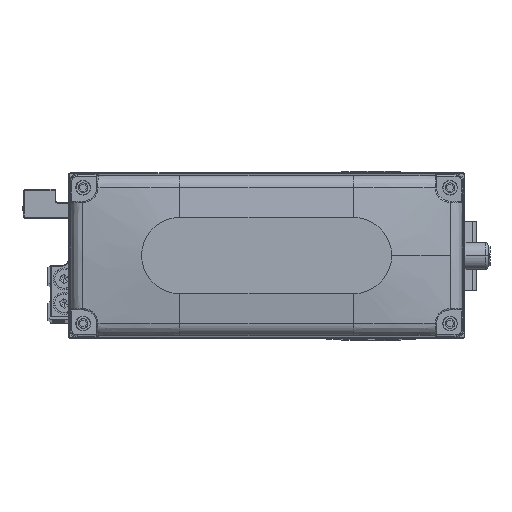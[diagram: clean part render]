
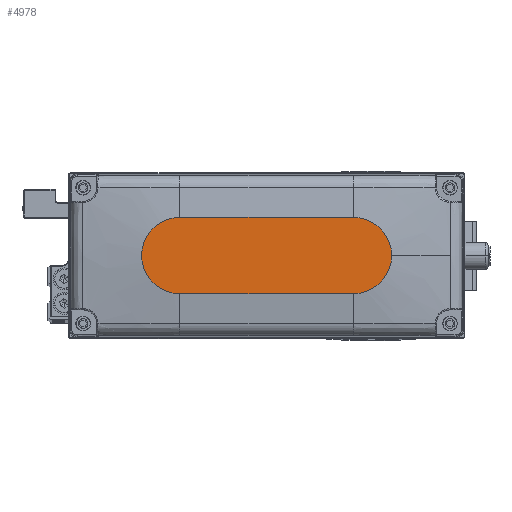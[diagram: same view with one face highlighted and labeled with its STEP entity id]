
A CAD part, top view. The second image highlights one B-rep face of the part: STEP entity #4978.
In plain terms, the highlighted planar face has unit normal (0, 0, 1).
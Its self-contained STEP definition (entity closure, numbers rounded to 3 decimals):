
#770 = LINE ( 'NONE', #15213, #40727 ) ;
#1277 = CARTESIAN_POINT ( 'NONE',  ( 32., 14., 35. ) ) ;
#1581 = DIRECTION ( 'NONE',  ( 0., 0., 1. ) ) ;
#1983 = VERTEX_POINT ( 'NONE', #20868 ) ;
#2961 = CARTESIAN_POINT ( 'NONE',  ( 32., 0., 35. ) ) ;
#4111 = LINE ( 'NONE', #18548, #30525 ) ;
#4978 = ADVANCED_FACE ( 'NONE', ( #24884 ), #39307, .T. ) ;
#5972 = CIRCLE ( 'NONE', #12015, 14. ) ;
#6513 = AXIS2_PLACEMENT_3D ( 'NONE', #33997, #1581, #16019 ) ;
#6885 = CARTESIAN_POINT ( 'NONE',  ( 0., 0., 35. ) ) ;
#10132 = EDGE_CURVE ( 'NONE', #40741, #17704, #770, .T. ) ;
#12015 = AXIS2_PLACEMENT_3D ( 'NONE', #2961, #17402, #31829 ) ;
#13487 = CARTESIAN_POINT ( 'NONE',  ( -32., 0., 35. ) ) ;
#14557 = AXIS2_PLACEMENT_3D ( 'NONE', #6885, #21331, #35742 ) ;
#15213 = CARTESIAN_POINT ( 'NONE',  ( -32., 14., 35. ) ) ;
#15373 = EDGE_CURVE ( 'NONE', #28231, #40741, #5972, .T. ) ;
#16019 = DIRECTION ( 'NONE',  ( 1., 0., 0. ) ) ;
#16260 = ORIENTED_EDGE ( 'NONE', *, *, #25355, .T. ) ;
#16333 = AXIS2_PLACEMENT_3D ( 'NONE', #13487, #27926, #42347 ) ;
#17402 = DIRECTION ( 'NONE',  ( 0., 0., 1. ) ) ;
#17704 = VERTEX_POINT ( 'NONE', #19062 ) ;
#18548 = CARTESIAN_POINT ( 'NONE',  ( -32., -14., 35. ) ) ;
#19062 = CARTESIAN_POINT ( 'NONE',  ( -32., 14., 35. ) ) ;
#20868 = CARTESIAN_POINT ( 'NONE',  ( 32., -14., 35. ) ) ;
#21135 = VERTEX_POINT ( 'NONE', #40820 ) ;
#21331 = DIRECTION ( 'NONE',  ( 0., 0., 1. ) ) ;
#21670 = CARTESIAN_POINT ( 'NONE',  ( 46., 0., 35. ) ) ;
#21687 = ORIENTED_EDGE ( 'NONE', *, *, #23169, .T. ) ;
#23169 = EDGE_CURVE ( 'NONE', #17704, #21135, #36713, .T. ) ;
#24884 = FACE_OUTER_BOUND ( 'NONE', #44248, .T. ) ;
#25355 = EDGE_CURVE ( 'NONE', #21135, #1983, #4111, .T. ) ;
#26924 = CIRCLE ( 'NONE', #6513, 14. ) ;
#27926 = DIRECTION ( 'NONE',  ( 0., 0., 1. ) ) ;
#28231 = VERTEX_POINT ( 'NONE', #21670 ) ;
#29644 = DIRECTION ( 'NONE',  ( -1., 0., 0. ) ) ;
#30525 = VECTOR ( 'NONE', #32974, 1000. ) ;
#31829 = DIRECTION ( 'NONE',  ( 1., 0., 0. ) ) ;
#32412 = ORIENTED_EDGE ( 'NONE', *, *, #10132, .T. ) ;
#32974 = DIRECTION ( 'NONE',  ( 1., 0., 0. ) ) ;
#33997 = CARTESIAN_POINT ( 'NONE',  ( 32., 0., 35. ) ) ;
#35209 = ORIENTED_EDGE ( 'NONE', *, *, #15373, .T. ) ;
#35742 = DIRECTION ( 'NONE',  ( 1., 0., 0. ) ) ;
#36713 = CIRCLE ( 'NONE', #16333, 14. ) ;
#39090 = ORIENTED_EDGE ( 'NONE', *, *, #39342, .T. ) ;
#39307 = PLANE ( 'NONE',  #14557 ) ;
#39342 = EDGE_CURVE ( 'NONE', #1983, #28231, #26924, .T. ) ;
#40727 = VECTOR ( 'NONE', #29644, 1000. ) ;
#40741 = VERTEX_POINT ( 'NONE', #1277 ) ;
#40820 = CARTESIAN_POINT ( 'NONE',  ( -32., -14., 35. ) ) ;
#42347 = DIRECTION ( 'NONE',  ( 1., 0., 0. ) ) ;
#44248 = EDGE_LOOP ( 'NONE', ( #32412, #21687, #16260, #39090, #35209 ) ) ;
